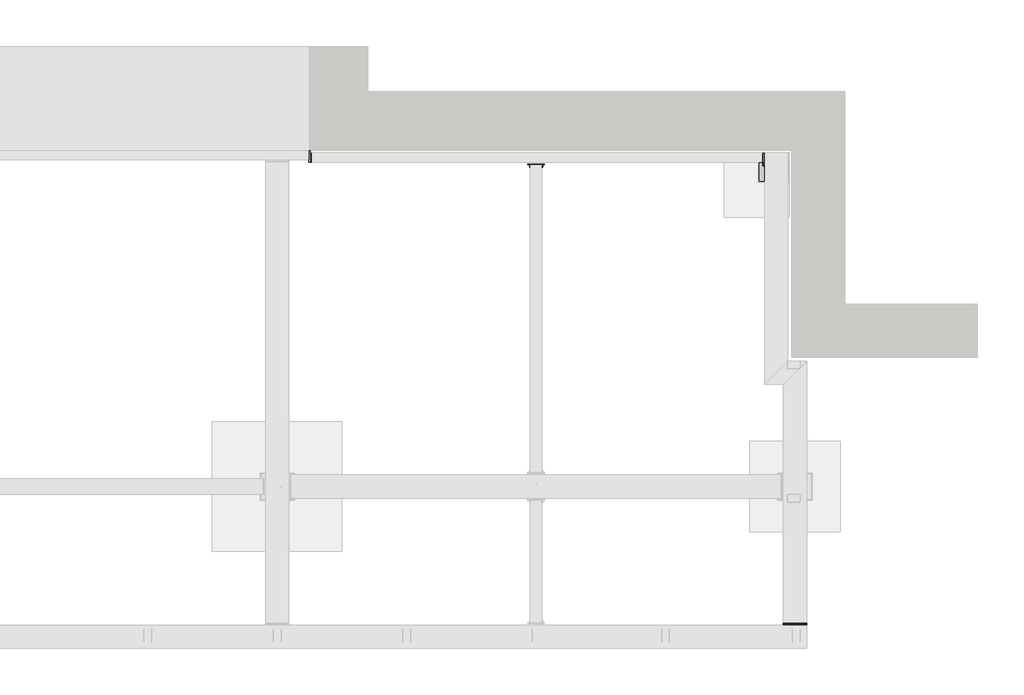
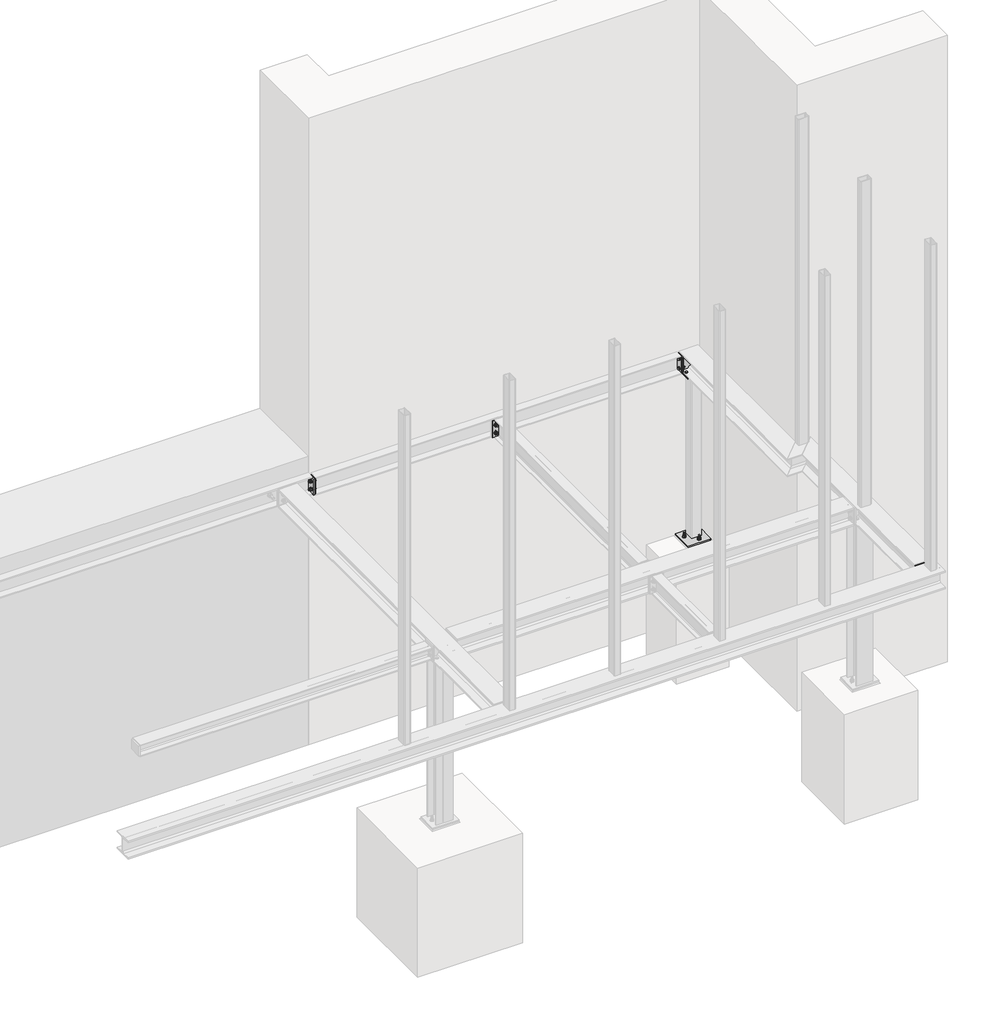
# One storey, part 15 of 31: 17 proxies.
"""IFC4 building model written with IfcOpenShell, lengths in millimetres."""

from ifc_helpers import new_model, si_unit, point, frame, frame_2d, origin, place, context, project, spatial, polyline, circle_curve, trimmed, segment, composite_curve, outline, extrude, transform, mapped, element, save
from components import bolt_assembly_dc997c6e

model = new_model("IFC4")

# Units and contexts
model_context = context("Model", 3, world=origin())
ifc_project = project(units=[si_unit("LENGTHUNIT", "METRE", prefix="MILLI")], contexts=[model_context])

# Site, building, storey
site = spatial("IfcSite", under=ifc_project)
building = spatial("IfcBuilding", under=site)
storey = spatial("IfcBuildingStorey", under=building, Name="Základy", Elevation=-1200.0)

# Proxies
placement = place(None, origin())
element("IfcBuildingElementProxy", 1, Name="PLECH", ObjectType="PLECH", at=placement, inside=storey, context=model_context, shape_type="SweptSolid", body=[
    extrude(outline(polyline([(15805.0, 3765.0), (15805.0, 3835.0), (15815.0, 3835.0), (15815.0, 3765.0), (15805.0, 3765.0)])), frame((0.0, 0.0, -330.0), z_axis=(0.0, 0.0, 1.0), x_axis=(1.0, 0.0, 0.0)), (0.0, 0.0, 1.0), 160.0),
])
element("IfcBuildingElementProxy", 2, Name="PLECH", ObjectType="PLECH", at=placement, inside=storey, context=model_context, shape_type="SweptSolid", body=[
    extrude(outline(composite_curve([segment(polyline([(-174.0, 15815.0), (-326.0, 15815.0), (-326.0, 15875.5)]), True, "CONTINUOUS"), segment(trimmed(circle_curve(frame_2d((-326.0, 15900.5)), 25.0), [point((-326.0, 15875.5))], [point((-301.0, 15900.5))], True, "CARTESIAN"), True, "CONTINUOUS"), segment(polyline([(-301.0, 15900.5), (-199.0, 15900.5)]), True, "CONTINUOUS"), segment(trimmed(circle_curve(frame_2d((-174.0, 15900.5)), 25.0), [point((-199.0, 15900.5))], [point((-174.0, 15875.5))], True, "CARTESIAN"), True, "CONTINUOUS"), segment(polyline([(-174.0, 15875.5), (-174.0, 15815.0)]), True, "CONTINUOUS")], self_intersect=False)), frame((0.0, 3795.75, 0.0), z_axis=(0.0, 1.0, 0.0), x_axis=(0.0, 0.0, 1.0)), (0.0, 0.0, 1.0), 8.0),
])
element("IfcBuildingElementProxy", 3, Name="PLECH", ObjectType="PLECH", at=placement, inside=storey, context=model_context, shape_type="SweptSolid", body=[
    extrude(outline(polyline([(15995.0, 3810.0), (15995.0, 3690.0), (15815.0, 3690.0), (15815.0, 3810.0), (15995.0, 3810.0)])), frame((0.0, 0.0, -350.0), z_axis=(0.0, 0.0, 1.0), x_axis=(1.0, 0.0, 0.0)), (0.0, 0.0, 1.0), 10.0),
])
element("IfcBuildingElementProxy", 4, Name="PLECH", ObjectType="PLECH", at=placement, inside=storey, context=model_context, shape_type="SweptSolid", body=[
    extrude(outline(polyline([(15995.0, 3830.0), (15995.0, 3620.0), (15775.0, 3620.0), (15775.0, 3830.0), (15995.0, 3830.0)])), frame((0.0, 0.0, -1990.0), z_axis=(0.0, 0.0, 1.0), x_axis=(1.0, 0.0, 0.0)), (0.0, 0.0, 1.0), 15.0),
])
element("IfcBuildingElementProxy", 5, Name="PLECH", ObjectType="PLECH", at=placement, inside=storey, context=model_context, shape_type="SweptSolid", body=[
    extrude(outline(polyline([(12305.0, 3855.0), (12305.0, 3765.0), (12295.0, 3765.0), (12295.0, 3855.0), (12305.0, 3855.0)])), frame((0.0, 0.0, -329.5), z_axis=(0.0, 0.0, 1.0), x_axis=(1.0, 0.0, 0.0)), (0.0, 0.0, 1.0), 159.0),
])
element("IfcBuildingElementProxy", 6, Name="PLECH", ObjectType="PLECH", at=placement, inside=storey, context=model_context, shape_type="SweptSolid", body=[
    extrude(outline(polyline([(15797.0, 3765.0), (15797.0, 3835.0), (15805.0, 3835.0), (15805.0, 3765.0), (15797.0, 3765.0)])), frame((0.0, 0.0, -330.0), z_axis=(0.0, 0.0, 1.0), x_axis=(1.0, 0.0, 0.0)), (0.0, 0.0, 1.0), 160.0),
])
element("IfcBuildingElementProxy", 7, Name="PLECH", ObjectType="PLECH", at=placement, inside=storey, context=model_context, shape_type="SweptSolid", body=[
    extrude(outline(polyline([(12315.0, 3835.0), (12315.0, 3765.0), (12305.0, 3765.0), (12305.0, 3835.0), (12315.0, 3835.0)])), frame((0.0, 0.0, -329.5), z_axis=(0.0, 0.0, 1.0), x_axis=(1.0, 0.0, 0.0)), (0.0, 0.0, 1.0), 159.0),
])
element("IfcBuildingElementProxy", 8, Name="PLECH", ObjectType="PLECH", at=placement, inside=storey, context=model_context, shape_type="SweptSolid", body=[
    extrude(outline(polyline([(15960.0, 210.0), (16140.0, 210.0), (16140.0, 200.0), (15960.0, 200.0), (15960.0, 210.0)])), frame((0.0, 0.0, -332.0), z_axis=(0.0, 0.0, 1.0), x_axis=(1.0, 0.0, 0.0)), (0.0, 0.0, 1.0), 164.0),
])
element("IfcBuildingElementProxy", 9, Name="PLECH", ObjectType="PLECH", at=placement, inside=storey, context=model_context, shape_type="SweptSolid", body=[
    extrude(outline(composite_curve([segment(polyline([(190.0, -174.0), (190.0, -326.0), (124.25, -326.0)]), True, "CONTINUOUS"), segment(trimmed(circle_curve(frame_2d((104.25, -326.0)), 20.0), [point((124.25, -326.0))], [point((104.25, -306.0))], True, "CARTESIAN"), True, "CONTINUOUS"), segment(polyline([(104.25, -306.0), (104.25, -194.0)]), True, "CONTINUOUS"), segment(trimmed(circle_curve(frame_2d((104.25, -174.0)), 20.0), [point((104.25, -194.0))], [point((124.25, -174.0))], True, "CARTESIAN"), True, "CONTINUOUS"), segment(polyline([(124.25, -174.0), (190.0, -174.0)]), True, "CONTINUOUS")], self_intersect=False)), frame((16046.0, 0.0, 0.0), z_axis=(1.0, 0.0, 0.0), x_axis=(0.0, 1.0, 0.0)), (0.0, 0.0, 1.0), 8.0),
])
element("IfcBuildingElementProxy", 10, Name="PLECH", ObjectType="PLECH", at=placement, inside=storey, context=model_context, shape_type="SweptSolid", body=[
    extrude(outline(polyline([(15960.0, 200.0), (16140.0, 200.0), (16140.0, 190.0), (15960.0, 190.0), (15960.0, 200.0)])), frame((0.0, 0.0, -332.0), z_axis=(0.0, 0.0, 1.0), x_axis=(1.0, 0.0, 0.0)), (0.0, 0.0, 1.0), 164.0),
])
element("IfcBuildingElementProxy", 11, Name="PLECH", ObjectType="PLECH", at=placement, inside=storey, context=model_context, shape_type="SweptSolid", body=[
    extrude(outline(polyline([(13985.0, 3755.0), (14115.0, 3755.0), (14115.0, 3745.0), (13985.0, 3745.0), (13985.0, 3755.0)])), frame((0.0, 0.0, -332.0), z_axis=(0.0, 0.0, 1.0), x_axis=(1.0, 0.0, 0.0)), (0.0, 0.0, 1.0), 164.0),
])
element("IfcBuildingElementProxy", 12, Name="Bolt assembly", ObjectType="Bolt assembly", at=placement, inside=storey, context=model_context, shape_type="SweptSolid", body=[
    extrude(outline(composite_curve([segment(trimmed(circle_curve(frame_2d((3800.0, -200.0)), 9.0), [point((3800.0, -209.0))], [point((3800.0, -191.0))], False, "CARTESIAN"), True, "CONTINUOUS"), segment(trimmed(circle_curve(frame_2d((3800.0, -200.0)), 9.0), [point((3800.0, -191.0))], [point((3800.0, -209.0))], False, "CARTESIAN"), True, "CONTINUOUS")], self_intersect=False)), frame((15804.9, 0.0, 0.0), z_axis=(1.0, 0.0, 0.0), x_axis=(0.0, 1.0, 0.0)), (0.0, 0.0, 1.0), 10.1),
    extrude(outline(polyline([(3800.0, -213.8564065), (3788.0, -206.9282032), (3788.0, -193.0717968), (3800.0, -186.1435935), (3812.0, -193.0717968), (3812.0, -206.9282032), (3800.0, -213.8564065)])), frame((15784.0, 0.0, 0.0), z_axis=(1.0, 0.0, 0.0), x_axis=(0.0, 1.0, 0.0)), (0.0, 0.0, 1.0), 10.0),
    extrude(outline(composite_curve([segment(trimmed(circle_curve(frame_2d((3800.0, -200.0)), 8.0), [point((3800.0, -208.0))], [point((3800.0, -192.0))], False, "CARTESIAN"), True, "CONTINUOUS"), segment(trimmed(circle_curve(frame_2d((3800.0, -200.0)), 8.0), [point((3800.0, -192.0))], [point((3800.0, -208.0))], False, "CARTESIAN"), True, "CONTINUOUS")], self_intersect=False)), frame((15794.0, 0.0, 0.0), z_axis=(1.0, 0.0, 0.0), x_axis=(0.0, 1.0, 0.0)), (0.0, 0.0, 1.0), 50.0),
    extrude(outline(composite_curve([segment(trimmed(circle_curve(frame_2d((3800.0, -200.0)), 15.0), [point((3800.0, -215.0))], [point((3800.0, -185.0))], False, "CARTESIAN"), True, "CONTINUOUS"), segment(trimmed(circle_curve(frame_2d((3800.0, -200.0)), 15.0), [point((3800.0, -185.0))], [point((3800.0, -215.0))], False, "CARTESIAN"), True, "CONTINUOUS")], self_intersect=False)), frame((15794.0, 0.0, 0.0), z_axis=(1.0, 0.0, 0.0), x_axis=(0.0, 1.0, 0.0)), (0.0, 0.0, 1.0), 3.0),
    extrude(outline(composite_curve([segment(trimmed(circle_curve(frame_2d((3800.0, -200.0)), 15.0), [point((3800.0, -215.0))], [point((3800.0, -185.0))], False, "CARTESIAN"), True, "CONTINUOUS"), segment(trimmed(circle_curve(frame_2d((3800.0, -200.0)), 15.0), [point((3800.0, -185.0))], [point((3800.0, -215.0))], False, "CARTESIAN"), True, "CONTINUOUS")], self_intersect=False)), frame((15815.0, 0.0, 0.0), z_axis=(1.0, 0.0, 0.0), x_axis=(0.0, 1.0, 0.0)), (0.0, 0.0, 1.0), 3.0),
    extrude(outline(polyline([(3800.0, -215.4441197), (3786.625, -207.7220599), (3786.625, -192.2779401), (3800.0, -184.5558803), (3813.375, -192.2779401), (3813.375, -207.7220599), (3800.0, -215.4441197)])), frame((15818.0, 0.0, 0.0), z_axis=(1.0, 0.0, 0.0), x_axis=(0.0, 1.0, 0.0)), (0.0, 0.0, 1.0), 13.0),
    extrude(outline(composite_curve([segment(trimmed(circle_curve(frame_2d((3800.0, -200.0)), 9.0), [point((3800.0, -209.0))], [point((3800.0, -191.0))], False, "CARTESIAN"), True, "CONTINUOUS"), segment(trimmed(circle_curve(frame_2d((3800.0, -200.0)), 9.0), [point((3800.0, -191.0))], [point((3800.0, -209.0))], False, "CARTESIAN"), True, "CONTINUOUS")], self_intersect=False)), frame((15797.1, 0.0, 0.0), z_axis=(1.0, 0.0, 0.0), x_axis=(0.0, 1.0, 0.0)), (0.0, 0.0, 1.0), 8.0),
    extrude(outline(composite_curve([segment(trimmed(circle_curve(frame_2d((3800.0, -300.0)), 9.0), [point((3800.0, -309.0))], [point((3800.0, -291.0))], False, "CARTESIAN"), True, "CONTINUOUS"), segment(trimmed(circle_curve(frame_2d((3800.0, -300.0)), 9.0), [point((3800.0, -291.0))], [point((3800.0, -309.0))], False, "CARTESIAN"), True, "CONTINUOUS")], self_intersect=False)), frame((15804.9, 0.0, 0.0), z_axis=(1.0, 0.0, 0.0), x_axis=(0.0, 1.0, 0.0)), (0.0, 0.0, 1.0), 10.1),
    extrude(outline(polyline([(3800.0, -313.8564065), (3788.0, -306.9282032), (3788.0, -293.0717968), (3800.0, -286.1435935), (3812.0, -293.0717968), (3812.0, -306.9282032), (3800.0, -313.8564065)])), frame((15784.0, 0.0, 0.0), z_axis=(1.0, 0.0, 0.0), x_axis=(0.0, 1.0, 0.0)), (0.0, 0.0, 1.0), 10.0),
    extrude(outline(composite_curve([segment(trimmed(circle_curve(frame_2d((3800.0, -300.0)), 8.0), [point((3800.0, -308.0))], [point((3800.0, -292.0))], False, "CARTESIAN"), True, "CONTINUOUS"), segment(trimmed(circle_curve(frame_2d((3800.0, -300.0)), 8.0), [point((3800.0, -292.0))], [point((3800.0, -308.0))], False, "CARTESIAN"), True, "CONTINUOUS")], self_intersect=False)), frame((15794.0, 0.0, 0.0), z_axis=(1.0, 0.0, 0.0), x_axis=(0.0, 1.0, 0.0)), (0.0, 0.0, 1.0), 50.0),
    extrude(outline(composite_curve([segment(trimmed(circle_curve(frame_2d((3800.0, -300.0)), 15.0), [point((3800.0, -315.0))], [point((3800.0, -285.0))], False, "CARTESIAN"), True, "CONTINUOUS"), segment(trimmed(circle_curve(frame_2d((3800.0, -300.0)), 15.0), [point((3800.0, -285.0))], [point((3800.0, -315.0))], False, "CARTESIAN"), True, "CONTINUOUS")], self_intersect=False)), frame((15794.0, 0.0, 0.0), z_axis=(1.0, 0.0, 0.0), x_axis=(0.0, 1.0, 0.0)), (0.0, 0.0, 1.0), 3.0),
    extrude(outline(composite_curve([segment(trimmed(circle_curve(frame_2d((3800.0, -300.0)), 15.0), [point((3800.0, -315.0))], [point((3800.0, -285.0))], False, "CARTESIAN"), True, "CONTINUOUS"), segment(trimmed(circle_curve(frame_2d((3800.0, -300.0)), 15.0), [point((3800.0, -285.0))], [point((3800.0, -315.0))], False, "CARTESIAN"), True, "CONTINUOUS")], self_intersect=False)), frame((15815.0, 0.0, 0.0), z_axis=(1.0, 0.0, 0.0), x_axis=(0.0, 1.0, 0.0)), (0.0, 0.0, 1.0), 3.0),
    extrude(outline(polyline([(3800.0, -315.4441197), (3786.625, -307.7220599), (3786.625, -292.2779401), (3800.0, -284.5558803), (3813.375, -292.2779401), (3813.375, -307.7220599), (3800.0, -315.4441197)])), frame((15818.0, 0.0, 0.0), z_axis=(1.0, 0.0, 0.0), x_axis=(0.0, 1.0, 0.0)), (0.0, 0.0, 1.0), 13.0),
    extrude(outline(composite_curve([segment(trimmed(circle_curve(frame_2d((3800.0, -300.0)), 9.0), [point((3800.0, -309.0))], [point((3800.0, -291.0))], False, "CARTESIAN"), True, "CONTINUOUS"), segment(trimmed(circle_curve(frame_2d((3800.0, -300.0)), 9.0), [point((3800.0, -291.0))], [point((3800.0, -309.0))], False, "CARTESIAN"), True, "CONTINUOUS")], self_intersect=False)), frame((15797.1, 0.0, 0.0), z_axis=(1.0, 0.0, 0.0), x_axis=(0.0, 1.0, 0.0)), (0.0, 0.0, 1.0), 8.0),
])
element("IfcBuildingElementProxy", 13, Name="Bolt assembly", ObjectType="Bolt assembly", at=placement, inside=storey, context=model_context, shape_type="SweptSolid", body=[
    extrude(outline(composite_curve([segment(trimmed(circle_curve(frame_2d((15835.0, 3750.0)), 6.5), [point((15841.5, 3750.0))], [point((15828.5, 3750.0))], False, "CARTESIAN"), True, "CONTINUOUS"), segment(trimmed(circle_curve(frame_2d((15835.0, 3750.0)), 6.5), [point((15828.5, 3750.0))], [point((15841.5, 3750.0))], False, "CARTESIAN"), True, "CONTINUOUS")], self_intersect=False)), frame((0.0, 0.0, -350.0), z_axis=(0.0, 0.0, 1.0), x_axis=(1.0, 0.0, 0.0)), (0.0, 0.0, 1.0), 10.1),
    extrude(outline(polyline([(15845.3923048, 3750.0), (15840.1961524, 3741.0), (15829.8038476, 3741.0), (15824.6076952, 3750.0), (15829.8038476, 3759.0), (15840.1961524, 3759.0), (15845.3923048, 3750.0)])), frame((0.0, 0.0, -323.5), z_axis=(0.0, 0.0, 1.0), x_axis=(1.0, 0.0, 0.0)), (0.0, 0.0, 1.0), 7.5),
    extrude(outline(composite_curve([segment(trimmed(circle_curve(frame_2d((15835.0, 3750.0)), 6.0), [point((15841.0, 3750.0))], [point((15829.0, 3750.0))], False, "CARTESIAN"), True, "CONTINUOUS"), segment(trimmed(circle_curve(frame_2d((15835.0, 3750.0)), 6.0), [point((15829.0, 3750.0))], [point((15841.0, 3750.0))], False, "CARTESIAN"), True, "CONTINUOUS")], self_intersect=False)), frame((0.0, 0.0, -368.5), z_axis=(0.0, 0.0, 1.0), x_axis=(1.0, 0.0, 0.0)), (0.0, 0.0, 1.0), 45.0),
    extrude(outline(composite_curve([segment(trimmed(circle_curve(frame_2d((15835.0, 3750.0)), 12.0), [point((15847.0, 3750.0))], [point((15823.0, 3750.0))], False, "CARTESIAN"), True, "CONTINUOUS"), segment(trimmed(circle_curve(frame_2d((15835.0, 3750.0)), 12.0), [point((15823.0, 3750.0))], [point((15847.0, 3750.0))], False, "CARTESIAN"), True, "CONTINUOUS")], self_intersect=False)), frame((0.0, 0.0, -326.0), z_axis=(0.0, 0.0, 1.0), x_axis=(1.0, 0.0, 0.0)), (0.0, 0.0, 1.0), 2.5),
    extrude(outline(composite_curve([segment(trimmed(circle_curve(frame_2d((15835.0, 3750.0)), 12.0), [point((15847.0, 3750.0))], [point((15823.0, 3750.0))], False, "CARTESIAN"), True, "CONTINUOUS"), segment(trimmed(circle_curve(frame_2d((15835.0, 3750.0)), 12.0), [point((15823.0, 3750.0))], [point((15847.0, 3750.0))], False, "CARTESIAN"), True, "CONTINUOUS")], self_intersect=False)), frame((0.0, 0.0, -352.5), z_axis=(0.0, 0.0, 1.0), x_axis=(1.0, 0.0, 0.0)), (0.0, 0.0, 1.0), 2.5),
    extrude(outline(polyline([(15845.9696551, 3750.0), (15840.4848276, 3740.5), (15829.5151724, 3740.5), (15824.0303449, 3750.0), (15829.5151724, 3759.5), (15840.4848276, 3759.5), (15845.9696551, 3750.0)])), frame((0.0, 0.0, -362.5), z_axis=(0.0, 0.0, 1.0), x_axis=(1.0, 0.0, 0.0)), (0.0, 0.0, 1.0), 10.0),
    extrude(outline(composite_curve([segment(trimmed(circle_curve(frame_2d((15835.0, 3750.0)), 6.5), [point((15841.5, 3750.0))], [point((15828.5, 3750.0))], False, "CARTESIAN"), True, "CONTINUOUS"), segment(trimmed(circle_curve(frame_2d((15835.0, 3750.0)), 6.5), [point((15828.5, 3750.0))], [point((15841.5, 3750.0))], False, "CARTESIAN"), True, "CONTINUOUS")], self_intersect=False)), frame((0.0, 0.0, -340.1), z_axis=(0.0, 0.0, 1.0), x_axis=(1.0, 0.0, 0.0)), (0.0, 0.0, 1.0), 14.0),
    extrude(outline(composite_curve([segment(trimmed(circle_curve(frame_2d((15975.0, 3750.0)), 6.5), [point((15981.5, 3750.0))], [point((15968.5, 3750.0))], False, "CARTESIAN"), True, "CONTINUOUS"), segment(trimmed(circle_curve(frame_2d((15975.0, 3750.0)), 6.5), [point((15968.5, 3750.0))], [point((15981.5, 3750.0))], False, "CARTESIAN"), True, "CONTINUOUS")], self_intersect=False)), frame((0.0, 0.0, -350.0), z_axis=(0.0, 0.0, 1.0), x_axis=(1.0, 0.0, 0.0)), (0.0, 0.0, 1.0), 10.1),
    extrude(outline(polyline([(15985.3923048, 3750.0), (15980.1961524, 3741.0), (15969.8038476, 3741.0), (15964.6076952, 3750.0), (15969.8038476, 3759.0), (15980.1961524, 3759.0), (15985.3923048, 3750.0)])), frame((0.0, 0.0, -323.5), z_axis=(0.0, 0.0, 1.0), x_axis=(1.0, 0.0, 0.0)), (0.0, 0.0, 1.0), 7.5),
    extrude(outline(composite_curve([segment(trimmed(circle_curve(frame_2d((15975.0, 3750.0)), 6.0), [point((15981.0, 3750.0))], [point((15969.0, 3750.0))], False, "CARTESIAN"), True, "CONTINUOUS"), segment(trimmed(circle_curve(frame_2d((15975.0, 3750.0)), 6.0), [point((15969.0, 3750.0))], [point((15981.0, 3750.0))], False, "CARTESIAN"), True, "CONTINUOUS")], self_intersect=False)), frame((0.0, 0.0, -368.5), z_axis=(0.0, 0.0, 1.0), x_axis=(1.0, 0.0, 0.0)), (0.0, 0.0, 1.0), 45.0),
    extrude(outline(composite_curve([segment(trimmed(circle_curve(frame_2d((15975.0, 3750.0)), 12.0), [point((15987.0, 3750.0))], [point((15963.0, 3750.0))], False, "CARTESIAN"), True, "CONTINUOUS"), segment(trimmed(circle_curve(frame_2d((15975.0, 3750.0)), 12.0), [point((15963.0, 3750.0))], [point((15987.0, 3750.0))], False, "CARTESIAN"), True, "CONTINUOUS")], self_intersect=False)), frame((0.0, 0.0, -326.0), z_axis=(0.0, 0.0, 1.0), x_axis=(1.0, 0.0, 0.0)), (0.0, 0.0, 1.0), 2.5),
    extrude(outline(composite_curve([segment(trimmed(circle_curve(frame_2d((15975.0, 3750.0)), 12.0), [point((15987.0, 3750.0))], [point((15963.0, 3750.0))], False, "CARTESIAN"), True, "CONTINUOUS"), segment(trimmed(circle_curve(frame_2d((15975.0, 3750.0)), 12.0), [point((15963.0, 3750.0))], [point((15987.0, 3750.0))], False, "CARTESIAN"), True, "CONTINUOUS")], self_intersect=False)), frame((0.0, 0.0, -352.5), z_axis=(0.0, 0.0, 1.0), x_axis=(1.0, 0.0, 0.0)), (0.0, 0.0, 1.0), 2.5),
    extrude(outline(polyline([(15985.9696551, 3750.0), (15980.4848276, 3740.5), (15969.5151724, 3740.5), (15964.0303449, 3750.0), (15969.5151724, 3759.5), (15980.4848276, 3759.5), (15985.9696551, 3750.0)])), frame((0.0, 0.0, -362.5), z_axis=(0.0, 0.0, 1.0), x_axis=(1.0, 0.0, 0.0)), (0.0, 0.0, 1.0), 10.0),
    extrude(outline(composite_curve([segment(trimmed(circle_curve(frame_2d((15975.0, 3750.0)), 6.5), [point((15981.5, 3750.0))], [point((15968.5, 3750.0))], False, "CARTESIAN"), True, "CONTINUOUS"), segment(trimmed(circle_curve(frame_2d((15975.0, 3750.0)), 6.5), [point((15968.5, 3750.0))], [point((15981.5, 3750.0))], False, "CARTESIAN"), True, "CONTINUOUS")], self_intersect=False)), frame((0.0, 0.0, -340.1), z_axis=(0.0, 0.0, 1.0), x_axis=(1.0, 0.0, 0.0)), (0.0, 0.0, 1.0), 14.0),
])
element("IfcBuildingElementProxy", 14, Name="Bolt assembly", ObjectType="Bolt assembly", at=placement, inside=storey, context=model_context, shape_type="SweptSolid", body=[
    extrude(outline(composite_curve([segment(trimmed(circle_curve(frame_2d((3800.0, -290.0)), 9.0), [point((3809.0, -290.0))], [point((3791.0, -290.0))], False, "CARTESIAN"), True, "CONTINUOUS"), segment(trimmed(circle_curve(frame_2d((3800.0, -290.0)), 9.0), [point((3791.0, -290.0))], [point((3809.0, -290.0))], False, "CARTESIAN"), True, "CONTINUOUS")], self_intersect=False)), frame((12304.9, 0.0, 0.0), z_axis=(1.0, 0.0, 0.0), x_axis=(0.0, 1.0, 0.0)), (0.0, 0.0, 1.0), 10.0),
    extrude(outline(polyline([(3813.8564065, -290.0), (3806.9282032, -302.0), (3793.0717968, -302.0), (3786.1435935, -290.0), (3793.0717968, -278.0), (3806.9282032, -278.0), (3813.8564065, -290.0)])), frame((12318.0, 0.0, 0.0), z_axis=(1.0, 0.0, 0.0), x_axis=(0.0, 1.0, 0.0)), (0.0, 0.0, 1.0), 10.0),
    extrude(outline(composite_curve([segment(trimmed(circle_curve(frame_2d((3800.0, -290.0)), 8.0), [point((3808.0, -290.0))], [point((3792.0, -290.0))], False, "CARTESIAN"), True, "CONTINUOUS"), segment(trimmed(circle_curve(frame_2d((3800.0, -290.0)), 8.0), [point((3792.0, -290.0))], [point((3808.0, -290.0))], False, "CARTESIAN"), True, "CONTINUOUS")], self_intersect=False)), frame((12268.0, 0.0, 0.0), z_axis=(1.0, 0.0, 0.0), x_axis=(0.0, 1.0, 0.0)), (0.0, 0.0, 1.0), 50.0),
    extrude(outline(composite_curve([segment(trimmed(circle_curve(frame_2d((3800.0, -290.0)), 15.0), [point((3815.0, -290.0))], [point((3785.0, -290.0))], False, "CARTESIAN"), True, "CONTINUOUS"), segment(trimmed(circle_curve(frame_2d((3800.0, -290.0)), 15.0), [point((3785.0, -290.0))], [point((3815.0, -290.0))], False, "CARTESIAN"), True, "CONTINUOUS")], self_intersect=False)), frame((12315.0, 0.0, 0.0), z_axis=(1.0, 0.0, 0.0), x_axis=(0.0, 1.0, 0.0)), (0.0, 0.0, 1.0), 3.0),
    extrude(outline(composite_curve([segment(trimmed(circle_curve(frame_2d((3800.0, -290.0)), 15.0), [point((3815.0, -290.0))], [point((3785.0, -290.0))], False, "CARTESIAN"), True, "CONTINUOUS"), segment(trimmed(circle_curve(frame_2d((3800.0, -290.0)), 15.0), [point((3785.0, -290.0))], [point((3815.0, -290.0))], False, "CARTESIAN"), True, "CONTINUOUS")], self_intersect=False)), frame((12292.0, 0.0, 0.0), z_axis=(1.0, 0.0, 0.0), x_axis=(0.0, 1.0, 0.0)), (0.0, 0.0, 1.0), 3.0),
    extrude(outline(polyline([(3815.4441197, -290.0), (3807.7220599, -303.375), (3792.2779401, -303.375), (3784.5558803, -290.0), (3792.2779401, -276.625), (3807.7220599, -276.625), (3815.4441197, -290.0)])), frame((12279.0, 0.0, 0.0), z_axis=(1.0, 0.0, 0.0), x_axis=(0.0, 1.0, 0.0)), (0.0, 0.0, 1.0), 13.0),
    extrude(outline(composite_curve([segment(trimmed(circle_curve(frame_2d((3800.0, -290.0)), 9.0), [point((3809.0, -290.0))], [point((3791.0, -290.0))], False, "CARTESIAN"), True, "CONTINUOUS"), segment(trimmed(circle_curve(frame_2d((3800.0, -290.0)), 9.0), [point((3791.0, -290.0))], [point((3809.0, -290.0))], False, "CARTESIAN"), True, "CONTINUOUS")], self_intersect=False)), frame((12295.0, 0.0, 0.0), z_axis=(1.0, 0.0, 0.0), x_axis=(0.0, 1.0, 0.0)), (0.0, 0.0, 1.0), 10.1),
    extrude(outline(composite_curve([segment(trimmed(circle_curve(frame_2d((3800.0, -210.0)), 9.0), [point((3809.0, -210.0))], [point((3791.0, -210.0))], False, "CARTESIAN"), True, "CONTINUOUS"), segment(trimmed(circle_curve(frame_2d((3800.0, -210.0)), 9.0), [point((3791.0, -210.0))], [point((3809.0, -210.0))], False, "CARTESIAN"), True, "CONTINUOUS")], self_intersect=False)), frame((12304.9, 0.0, 0.0), z_axis=(1.0, 0.0, 0.0), x_axis=(0.0, 1.0, 0.0)), (0.0, 0.0, 1.0), 10.0),
    extrude(outline(polyline([(3813.8564065, -210.0), (3806.9282032, -222.0), (3793.0717968, -222.0), (3786.1435935, -210.0), (3793.0717968, -198.0), (3806.9282032, -198.0), (3813.8564065, -210.0)])), frame((12318.0, 0.0, 0.0), z_axis=(1.0, 0.0, 0.0), x_axis=(0.0, 1.0, 0.0)), (0.0, 0.0, 1.0), 10.0),
    extrude(outline(composite_curve([segment(trimmed(circle_curve(frame_2d((3800.0, -210.0)), 8.0), [point((3808.0, -210.0))], [point((3792.0, -210.0))], False, "CARTESIAN"), True, "CONTINUOUS"), segment(trimmed(circle_curve(frame_2d((3800.0, -210.0)), 8.0), [point((3792.0, -210.0))], [point((3808.0, -210.0))], False, "CARTESIAN"), True, "CONTINUOUS")], self_intersect=False)), frame((12268.0, 0.0, 0.0), z_axis=(1.0, 0.0, 0.0), x_axis=(0.0, 1.0, 0.0)), (0.0, 0.0, 1.0), 50.0),
    extrude(outline(composite_curve([segment(trimmed(circle_curve(frame_2d((3800.0, -210.0)), 15.0), [point((3815.0, -210.0))], [point((3785.0, -210.0))], False, "CARTESIAN"), True, "CONTINUOUS"), segment(trimmed(circle_curve(frame_2d((3800.0, -210.0)), 15.0), [point((3785.0, -210.0))], [point((3815.0, -210.0))], False, "CARTESIAN"), True, "CONTINUOUS")], self_intersect=False)), frame((12315.0, 0.0, 0.0), z_axis=(1.0, 0.0, 0.0), x_axis=(0.0, 1.0, 0.0)), (0.0, 0.0, 1.0), 3.0),
    extrude(outline(composite_curve([segment(trimmed(circle_curve(frame_2d((3800.0, -210.0)), 15.0), [point((3815.0, -210.0))], [point((3785.0, -210.0))], False, "CARTESIAN"), True, "CONTINUOUS"), segment(trimmed(circle_curve(frame_2d((3800.0, -210.0)), 15.0), [point((3785.0, -210.0))], [point((3815.0, -210.0))], False, "CARTESIAN"), True, "CONTINUOUS")], self_intersect=False)), frame((12292.0, 0.0, 0.0), z_axis=(1.0, 0.0, 0.0), x_axis=(0.0, 1.0, 0.0)), (0.0, 0.0, 1.0), 3.0),
    extrude(outline(polyline([(3815.4441197, -210.0), (3807.7220599, -223.375), (3792.2779401, -223.375), (3784.5558803, -210.0), (3792.2779401, -196.625), (3807.7220599, -196.625), (3815.4441197, -210.0)])), frame((12279.0, 0.0, 0.0), z_axis=(1.0, 0.0, 0.0), x_axis=(0.0, 1.0, 0.0)), (0.0, 0.0, 1.0), 13.0),
    extrude(outline(composite_curve([segment(trimmed(circle_curve(frame_2d((3800.0, -210.0)), 9.0), [point((3809.0, -210.0))], [point((3791.0, -210.0))], False, "CARTESIAN"), True, "CONTINUOUS"), segment(trimmed(circle_curve(frame_2d((3800.0, -210.0)), 9.0), [point((3791.0, -210.0))], [point((3809.0, -210.0))], False, "CARTESIAN"), True, "CONTINUOUS")], self_intersect=False)), frame((12295.0, 0.0, 0.0), z_axis=(1.0, 0.0, 0.0), x_axis=(0.0, 1.0, 0.0)), (0.0, 0.0, 1.0), 10.1),
])
bolt_assembly_shape = bolt_assembly_dc997c6e(model_context)
element("IfcBuildingElementProxy", 15, Name="Bolt assembly", ObjectType="Bolt assembly", at=placement, inside=storey, context=model_context, shape_type="MappedRepresentation", body=[
    mapped(bolt_assembly_shape, transform((15815.0, 3750.0, -1975.0), x_axis=(1.0, 0.0, 0.0), y_axis=(0.0, 0.0, 1.0), z_axis=(0.0, -1.0, 0.0))),
])
element("IfcBuildingElementProxy", 16, Name="Bolt assembly", ObjectType="Bolt assembly", at=placement, inside=storey, context=model_context, shape_type="MappedRepresentation", body=[
    mapped(bolt_assembly_shape, transform((15905.0, 3660.0, -1975.0), x_axis=(1.0, 0.0, 0.0), y_axis=(0.0, 0.0, 1.0), z_axis=(0.0, -1.0, 0.0))),
])
element("IfcBuildingElementProxy", 17, Name="Bolt assembly 1", ObjectType="Bolt assembly 1", at=placement, inside=storey, context=model_context, shape_type="SweptSolid", body=[
    extrude(outline(composite_curve([segment(trimmed(circle_curve(frame_2d((-290.0, 14015.0)), 9.0), [point((-290.0, 14024.0))], [point((-290.0, 14006.0))], False, "CARTESIAN"), True, "CONTINUOUS"), segment(trimmed(circle_curve(frame_2d((-290.0, 14015.0)), 9.0), [point((-290.0, 14006.0))], [point((-290.0, 14024.0))], False, "CARTESIAN"), True, "CONTINUOUS")], self_intersect=False)), frame((0.0, 3754.9, 0.0), z_axis=(0.0, 1.0, 0.0), x_axis=(0.0, 0.0, 1.0)), (0.0, 0.0, 1.0), 10.0),
    extrude(outline(polyline([(-290.0, 14028.8564065), (-278.0, 14021.9282032), (-278.0, 14008.0717968), (-290.0, 14001.1435935), (-302.0, 14008.0717968), (-302.0, 14021.9282032), (-290.0, 14028.8564065)])), frame((0.0, 3768.0, 0.0), z_axis=(0.0, 1.0, 0.0), x_axis=(0.0, 0.0, 1.0)), (0.0, 0.0, 1.0), 10.0),
    extrude(outline(composite_curve([segment(trimmed(circle_curve(frame_2d((-290.0, 14015.0)), 8.0), [point((-290.0, 14023.0))], [point((-290.0, 14007.0))], False, "CARTESIAN"), True, "CONTINUOUS"), segment(trimmed(circle_curve(frame_2d((-290.0, 14015.0)), 8.0), [point((-290.0, 14007.0))], [point((-290.0, 14023.0))], False, "CARTESIAN"), True, "CONTINUOUS")], self_intersect=False)), frame((0.0, 3718.0, 0.0), z_axis=(0.0, 1.0, 0.0), x_axis=(0.0, 0.0, 1.0)), (0.0, 0.0, 1.0), 50.0),
    extrude(outline(composite_curve([segment(trimmed(circle_curve(frame_2d((-290.0, 14015.0)), 15.0), [point((-290.0, 14030.0))], [point((-290.0, 14000.0))], False, "CARTESIAN"), True, "CONTINUOUS"), segment(trimmed(circle_curve(frame_2d((-290.0, 14015.0)), 15.0), [point((-290.0, 14000.0))], [point((-290.0, 14030.0))], False, "CARTESIAN"), True, "CONTINUOUS")], self_intersect=False)), frame((0.0, 3765.0, 0.0), z_axis=(0.0, 1.0, 0.0), x_axis=(0.0, 0.0, 1.0)), (0.0, 0.0, 1.0), 3.0),
    extrude(outline(composite_curve([segment(trimmed(circle_curve(frame_2d((-290.0, 14015.0)), 15.0), [point((-290.0, 14030.0))], [point((-290.0, 14000.0))], False, "CARTESIAN"), True, "CONTINUOUS"), segment(trimmed(circle_curve(frame_2d((-290.0, 14015.0)), 15.0), [point((-290.0, 14000.0))], [point((-290.0, 14030.0))], False, "CARTESIAN"), True, "CONTINUOUS")], self_intersect=False)), frame((0.0, 3742.0, 0.0), z_axis=(0.0, 1.0, 0.0), x_axis=(0.0, 0.0, 1.0)), (0.0, 0.0, 1.0), 3.0),
    extrude(outline(polyline([(-290.0, 14030.4441197), (-276.625, 14022.7220599), (-276.625, 14007.2779401), (-290.0, 13999.5558803), (-303.375, 14007.2779401), (-303.375, 14022.7220599), (-290.0, 14030.4441197)])), frame((0.0, 3729.0, 0.0), z_axis=(0.0, 1.0, 0.0), x_axis=(0.0, 0.0, 1.0)), (0.0, 0.0, 1.0), 13.0),
    extrude(outline(composite_curve([segment(trimmed(circle_curve(frame_2d((-290.0, 14015.0)), 9.0), [point((-290.0, 14024.0))], [point((-290.0, 14006.0))], False, "CARTESIAN"), True, "CONTINUOUS"), segment(trimmed(circle_curve(frame_2d((-290.0, 14015.0)), 9.0), [point((-290.0, 14006.0))], [point((-290.0, 14024.0))], False, "CARTESIAN"), True, "CONTINUOUS")], self_intersect=False)), frame((0.0, 3745.0, 0.0), z_axis=(0.0, 1.0, 0.0), x_axis=(0.0, 0.0, 1.0)), (0.0, 0.0, 1.0), 10.1),
    extrude(outline(composite_curve([segment(trimmed(circle_curve(frame_2d((-290.0, 14085.0)), 9.0), [point((-290.0, 14094.0))], [point((-290.0, 14076.0))], False, "CARTESIAN"), True, "CONTINUOUS"), segment(trimmed(circle_curve(frame_2d((-290.0, 14085.0)), 9.0), [point((-290.0, 14076.0))], [point((-290.0, 14094.0))], False, "CARTESIAN"), True, "CONTINUOUS")], self_intersect=False)), frame((0.0, 3754.9, 0.0), z_axis=(0.0, 1.0, 0.0), x_axis=(0.0, 0.0, 1.0)), (0.0, 0.0, 1.0), 10.0),
    extrude(outline(polyline([(-290.0, 14098.8564065), (-278.0, 14091.9282032), (-278.0, 14078.0717968), (-290.0, 14071.1435935), (-302.0, 14078.0717968), (-302.0, 14091.9282032), (-290.0, 14098.8564065)])), frame((0.0, 3768.0, 0.0), z_axis=(0.0, 1.0, 0.0), x_axis=(0.0, 0.0, 1.0)), (0.0, 0.0, 1.0), 10.0),
    extrude(outline(composite_curve([segment(trimmed(circle_curve(frame_2d((-290.0, 14085.0)), 8.0), [point((-290.0, 14093.0))], [point((-290.0, 14077.0))], False, "CARTESIAN"), True, "CONTINUOUS"), segment(trimmed(circle_curve(frame_2d((-290.0, 14085.0)), 8.0), [point((-290.0, 14077.0))], [point((-290.0, 14093.0))], False, "CARTESIAN"), True, "CONTINUOUS")], self_intersect=False)), frame((0.0, 3718.0, 0.0), z_axis=(0.0, 1.0, 0.0), x_axis=(0.0, 0.0, 1.0)), (0.0, 0.0, 1.0), 50.0),
    extrude(outline(composite_curve([segment(trimmed(circle_curve(frame_2d((-290.0, 14085.0)), 15.0), [point((-290.0, 14100.0))], [point((-290.0, 14070.0))], False, "CARTESIAN"), True, "CONTINUOUS"), segment(trimmed(circle_curve(frame_2d((-290.0, 14085.0)), 15.0), [point((-290.0, 14070.0))], [point((-290.0, 14100.0))], False, "CARTESIAN"), True, "CONTINUOUS")], self_intersect=False)), frame((0.0, 3765.0, 0.0), z_axis=(0.0, 1.0, 0.0), x_axis=(0.0, 0.0, 1.0)), (0.0, 0.0, 1.0), 3.0),
    extrude(outline(composite_curve([segment(trimmed(circle_curve(frame_2d((-290.0, 14085.0)), 15.0), [point((-290.0, 14100.0))], [point((-290.0, 14070.0))], False, "CARTESIAN"), True, "CONTINUOUS"), segment(trimmed(circle_curve(frame_2d((-290.0, 14085.0)), 15.0), [point((-290.0, 14070.0))], [point((-290.0, 14100.0))], False, "CARTESIAN"), True, "CONTINUOUS")], self_intersect=False)), frame((0.0, 3742.0, 0.0), z_axis=(0.0, 1.0, 0.0), x_axis=(0.0, 0.0, 1.0)), (0.0, 0.0, 1.0), 3.0),
    extrude(outline(polyline([(-290.0, 14100.4441197), (-276.625, 14092.7220599), (-276.625, 14077.2779401), (-290.0, 14069.5558803), (-303.375, 14077.2779401), (-303.375, 14092.7220599), (-290.0, 14100.4441197)])), frame((0.0, 3729.0, 0.0), z_axis=(0.0, 1.0, 0.0), x_axis=(0.0, 0.0, 1.0)), (0.0, 0.0, 1.0), 13.0),
    extrude(outline(composite_curve([segment(trimmed(circle_curve(frame_2d((-290.0, 14085.0)), 9.0), [point((-290.0, 14094.0))], [point((-290.0, 14076.0))], False, "CARTESIAN"), True, "CONTINUOUS"), segment(trimmed(circle_curve(frame_2d((-290.0, 14085.0)), 9.0), [point((-290.0, 14076.0))], [point((-290.0, 14094.0))], False, "CARTESIAN"), True, "CONTINUOUS")], self_intersect=False)), frame((0.0, 3745.0, 0.0), z_axis=(0.0, 1.0, 0.0), x_axis=(0.0, 0.0, 1.0)), (0.0, 0.0, 1.0), 10.1),
    extrude(outline(composite_curve([segment(trimmed(circle_curve(frame_2d((-210.0, 14015.0)), 9.0), [point((-210.0, 14024.0))], [point((-210.0, 14006.0))], False, "CARTESIAN"), True, "CONTINUOUS"), segment(trimmed(circle_curve(frame_2d((-210.0, 14015.0)), 9.0), [point((-210.0, 14006.0))], [point((-210.0, 14024.0))], False, "CARTESIAN"), True, "CONTINUOUS")], self_intersect=False)), frame((0.0, 3754.9, 0.0), z_axis=(0.0, 1.0, 0.0), x_axis=(0.0, 0.0, 1.0)), (0.0, 0.0, 1.0), 10.0),
    extrude(outline(polyline([(-210.0, 14028.8564065), (-198.0, 14021.9282032), (-198.0, 14008.0717968), (-210.0, 14001.1435935), (-222.0, 14008.0717968), (-222.0, 14021.9282032), (-210.0, 14028.8564065)])), frame((0.0, 3768.0, 0.0), z_axis=(0.0, 1.0, 0.0), x_axis=(0.0, 0.0, 1.0)), (0.0, 0.0, 1.0), 10.0),
    extrude(outline(composite_curve([segment(trimmed(circle_curve(frame_2d((-210.0, 14015.0)), 8.0), [point((-210.0, 14023.0))], [point((-210.0, 14007.0))], False, "CARTESIAN"), True, "CONTINUOUS"), segment(trimmed(circle_curve(frame_2d((-210.0, 14015.0)), 8.0), [point((-210.0, 14007.0))], [point((-210.0, 14023.0))], False, "CARTESIAN"), True, "CONTINUOUS")], self_intersect=False)), frame((0.0, 3718.0, 0.0), z_axis=(0.0, 1.0, 0.0), x_axis=(0.0, 0.0, 1.0)), (0.0, 0.0, 1.0), 50.0),
    extrude(outline(composite_curve([segment(trimmed(circle_curve(frame_2d((-210.0, 14015.0)), 15.0), [point((-210.0, 14030.0))], [point((-210.0, 14000.0))], False, "CARTESIAN"), True, "CONTINUOUS"), segment(trimmed(circle_curve(frame_2d((-210.0, 14015.0)), 15.0), [point((-210.0, 14000.0))], [point((-210.0, 14030.0))], False, "CARTESIAN"), True, "CONTINUOUS")], self_intersect=False)), frame((0.0, 3765.0, 0.0), z_axis=(0.0, 1.0, 0.0), x_axis=(0.0, 0.0, 1.0)), (0.0, 0.0, 1.0), 3.0),
    extrude(outline(composite_curve([segment(trimmed(circle_curve(frame_2d((-210.0, 14015.0)), 15.0), [point((-210.0, 14030.0))], [point((-210.0, 14000.0))], False, "CARTESIAN"), True, "CONTINUOUS"), segment(trimmed(circle_curve(frame_2d((-210.0, 14015.0)), 15.0), [point((-210.0, 14000.0))], [point((-210.0, 14030.0))], False, "CARTESIAN"), True, "CONTINUOUS")], self_intersect=False)), frame((0.0, 3742.0, 0.0), z_axis=(0.0, 1.0, 0.0), x_axis=(0.0, 0.0, 1.0)), (0.0, 0.0, 1.0), 3.0),
    extrude(outline(polyline([(-210.0, 14030.4441197), (-196.625, 14022.7220599), (-196.625, 14007.2779401), (-210.0, 13999.5558803), (-223.375, 14007.2779401), (-223.375, 14022.7220599), (-210.0, 14030.4441197)])), frame((0.0, 3729.0, 0.0), z_axis=(0.0, 1.0, 0.0), x_axis=(0.0, 0.0, 1.0)), (0.0, 0.0, 1.0), 13.0),
    extrude(outline(composite_curve([segment(trimmed(circle_curve(frame_2d((-210.0, 14015.0)), 9.0), [point((-210.0, 14024.0))], [point((-210.0, 14006.0))], False, "CARTESIAN"), True, "CONTINUOUS"), segment(trimmed(circle_curve(frame_2d((-210.0, 14015.0)), 9.0), [point((-210.0, 14006.0))], [point((-210.0, 14024.0))], False, "CARTESIAN"), True, "CONTINUOUS")], self_intersect=False)), frame((0.0, 3745.0, 0.0), z_axis=(0.0, 1.0, 0.0), x_axis=(0.0, 0.0, 1.0)), (0.0, 0.0, 1.0), 10.1),
    extrude(outline(composite_curve([segment(trimmed(circle_curve(frame_2d((-210.0, 14085.0)), 9.0), [point((-210.0, 14094.0))], [point((-210.0, 14076.0))], False, "CARTESIAN"), True, "CONTINUOUS"), segment(trimmed(circle_curve(frame_2d((-210.0, 14085.0)), 9.0), [point((-210.0, 14076.0))], [point((-210.0, 14094.0))], False, "CARTESIAN"), True, "CONTINUOUS")], self_intersect=False)), frame((0.0, 3754.9, 0.0), z_axis=(0.0, 1.0, 0.0), x_axis=(0.0, 0.0, 1.0)), (0.0, 0.0, 1.0), 10.0),
    extrude(outline(polyline([(-210.0, 14098.8564065), (-198.0, 14091.9282032), (-198.0, 14078.0717968), (-210.0, 14071.1435935), (-222.0, 14078.0717968), (-222.0, 14091.9282032), (-210.0, 14098.8564065)])), frame((0.0, 3768.0, 0.0), z_axis=(0.0, 1.0, 0.0), x_axis=(0.0, 0.0, 1.0)), (0.0, 0.0, 1.0), 10.0),
    extrude(outline(composite_curve([segment(trimmed(circle_curve(frame_2d((-210.0, 14085.0)), 8.0), [point((-210.0, 14093.0))], [point((-210.0, 14077.0))], False, "CARTESIAN"), True, "CONTINUOUS"), segment(trimmed(circle_curve(frame_2d((-210.0, 14085.0)), 8.0), [point((-210.0, 14077.0))], [point((-210.0, 14093.0))], False, "CARTESIAN"), True, "CONTINUOUS")], self_intersect=False)), frame((0.0, 3718.0, 0.0), z_axis=(0.0, 1.0, 0.0), x_axis=(0.0, 0.0, 1.0)), (0.0, 0.0, 1.0), 50.0),
    extrude(outline(composite_curve([segment(trimmed(circle_curve(frame_2d((-210.0, 14085.0)), 15.0), [point((-210.0, 14100.0))], [point((-210.0, 14070.0))], False, "CARTESIAN"), True, "CONTINUOUS"), segment(trimmed(circle_curve(frame_2d((-210.0, 14085.0)), 15.0), [point((-210.0, 14070.0))], [point((-210.0, 14100.0))], False, "CARTESIAN"), True, "CONTINUOUS")], self_intersect=False)), frame((0.0, 3765.0, 0.0), z_axis=(0.0, 1.0, 0.0), x_axis=(0.0, 0.0, 1.0)), (0.0, 0.0, 1.0), 3.0),
    extrude(outline(composite_curve([segment(trimmed(circle_curve(frame_2d((-210.0, 14085.0)), 15.0), [point((-210.0, 14100.0))], [point((-210.0, 14070.0))], False, "CARTESIAN"), True, "CONTINUOUS"), segment(trimmed(circle_curve(frame_2d((-210.0, 14085.0)), 15.0), [point((-210.0, 14070.0))], [point((-210.0, 14100.0))], False, "CARTESIAN"), True, "CONTINUOUS")], self_intersect=False)), frame((0.0, 3742.0, 0.0), z_axis=(0.0, 1.0, 0.0), x_axis=(0.0, 0.0, 1.0)), (0.0, 0.0, 1.0), 3.0),
    extrude(outline(polyline([(-210.0, 14100.4441197), (-196.625, 14092.7220599), (-196.625, 14077.2779401), (-210.0, 14069.5558803), (-223.375, 14077.2779401), (-223.375, 14092.7220599), (-210.0, 14100.4441197)])), frame((0.0, 3729.0, 0.0), z_axis=(0.0, 1.0, 0.0), x_axis=(0.0, 0.0, 1.0)), (0.0, 0.0, 1.0), 13.0),
    extrude(outline(composite_curve([segment(trimmed(circle_curve(frame_2d((-210.0, 14085.0)), 9.0), [point((-210.0, 14094.0))], [point((-210.0, 14076.0))], False, "CARTESIAN"), True, "CONTINUOUS"), segment(trimmed(circle_curve(frame_2d((-210.0, 14085.0)), 9.0), [point((-210.0, 14076.0))], [point((-210.0, 14094.0))], False, "CARTESIAN"), True, "CONTINUOUS")], self_intersect=False)), frame((0.0, 3745.0, 0.0), z_axis=(0.0, 1.0, 0.0), x_axis=(0.0, 0.0, 1.0)), (0.0, 0.0, 1.0), 10.1),
])

save(model, "model.ifc")
